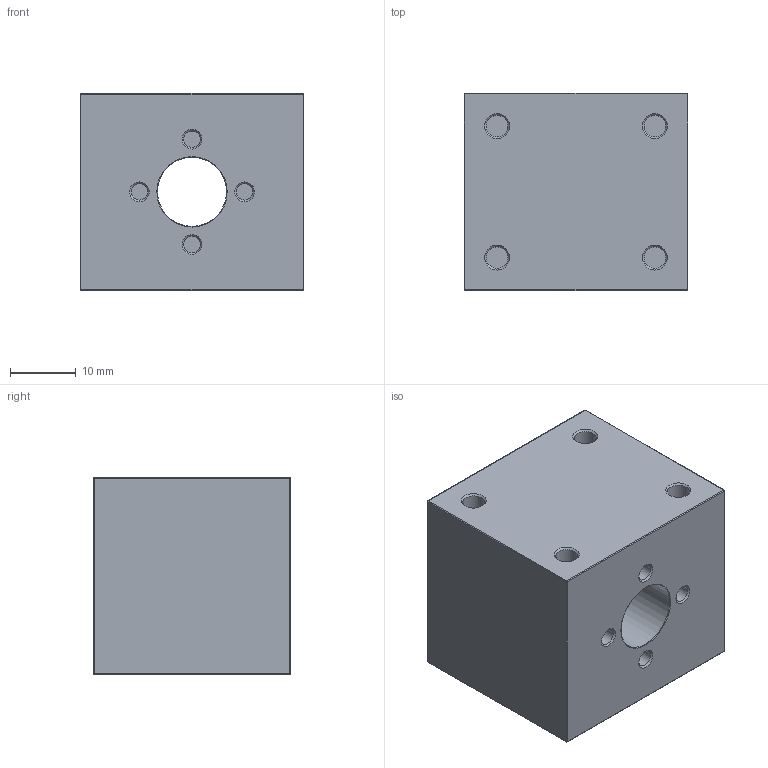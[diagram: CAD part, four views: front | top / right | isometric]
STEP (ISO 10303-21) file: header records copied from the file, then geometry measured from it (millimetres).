
FILE_DESCRIPTION(/* description */ ('STEP AP242 Edition 2','CAx-IF Rec.Pracs.---Representation and Presentation of Product Manufacturing Information (PMI)---4.0---2014-10-13','CAx-IF Rec.Pracs.---3D Tessellated Geometry---0.4---2014-09-14','2;1','CAx-IF Rec.Pracs.---User Defined Attributes---1.5---2016-08-15'),/* implementation_level */ '2;1');
FILE_NAME(/* name */ 'Nut Housing',/* time_stamp */ '2025-11-29T19:49:45Z',/* author */ (''),/* organization */ (''),/* preprocessor_version */ 'ST-DEVELOPER v20',/* originating_system */ 'ONSHAPE BY PTC INC, 1.207',/* authorisation */ ' ');
FILE_SCHEMA (('AP242_MANAGED_MODEL_BASED_3D_ENGINEERING_MIM_LF { 1 0 10303 442 3 1 4 }'));
Length unit declared in the file: metre
Products named in the file (1): T8_NUT_HOUSING
Bounding box: 34 x 30 x 30 mm (x, y, z)
Volume: 27337.6 mm3; surface area: 7544.6 mm2
Topology: 1 solids, 1 shells, 53 faces, 98 edges, 55 vertices
Faces by surface type: cylinder 21, plane 14, cone 9, sphere 8, torus 1
Full cylindrical faces by diameter (mm): 2.5 x4, 3.3 x4, 10.5 x1
Entity records: 1200 total; most frequent: DIRECTION 236, CARTESIAN_POINT 182, ORIENTED_EDGE 152, AXIS2_PLACEMENT_3D 106, EDGE_LOOP 82, FACE_BOUND 82, EDGE_CURVE 76, ADVANCED_FACE 53
